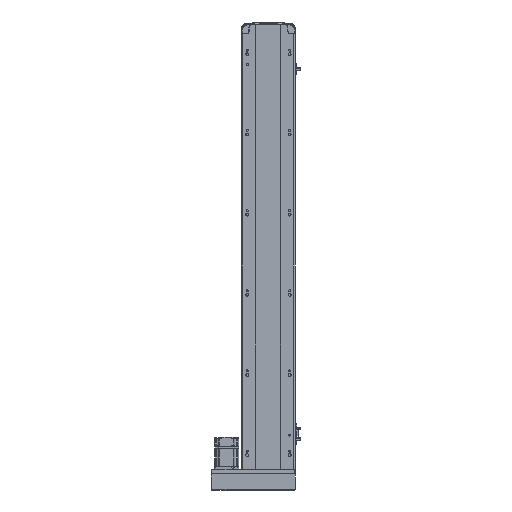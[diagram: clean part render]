
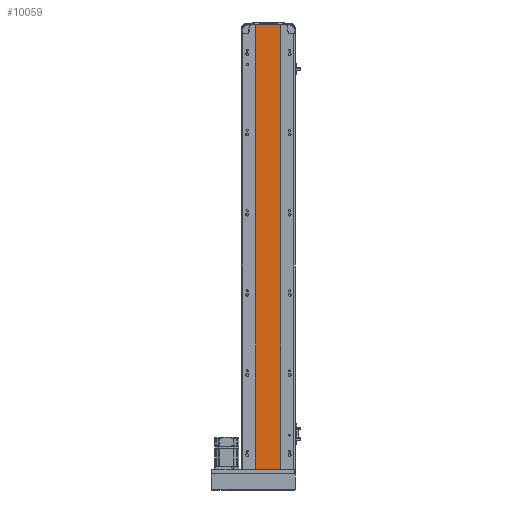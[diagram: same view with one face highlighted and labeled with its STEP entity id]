
A CAD part, front view. The second image highlights one B-rep face of the part: STEP entity #10059.
In plain terms, the highlighted planar face has unit normal (0, -1, 0).
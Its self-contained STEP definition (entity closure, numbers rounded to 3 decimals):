
#1772 = LINE ( 'NONE', #57295, #24034 ) ;
#2480 = VECTOR ( 'NONE', #4521, 1000. ) ;
#4521 = DIRECTION ( 'NONE',  ( 0., 0., -1. ) ) ;
#7937 = DIRECTION ( 'NONE',  ( 1., 0., 0. ) ) ;
#10059 = ADVANCED_FACE ( 'NONE', ( #46380 ), #34416, .F. ) ;
#12330 = ORIENTED_EDGE ( 'NONE', *, *, #18883, .T. ) ;
#14506 = LINE ( 'NONE', #31838, #35455 ) ;
#17767 = AXIS2_PLACEMENT_3D ( 'NONE', #52610, #56915, #48293 ) ;
#18516 = CARTESIAN_POINT ( 'NONE',  ( -32., 1., 0. ) ) ;
#18883 = EDGE_CURVE ( 'NONE', #52884, #23152, #48756, .T. ) ;
#20228 = VERTEX_POINT ( 'NONE', #43157 ) ;
#20748 = VECTOR ( 'NONE', #7937, 1000. ) ;
#23152 = VERTEX_POINT ( 'NONE', #27539 ) ;
#24034 = VECTOR ( 'NONE', #34384, 1000. ) ;
#27148 = DIRECTION ( 'NONE',  ( 1., 0., 0. ) ) ;
#27194 = EDGE_CURVE ( 'NONE', #20228, #52884, #27557, .T. ) ;
#27539 = CARTESIAN_POINT ( 'NONE',  ( 30., 1., 0. ) ) ;
#27557 = LINE ( 'NONE', #31247, #2480 ) ;
#29405 = ORIENTED_EDGE ( 'NONE', *, *, #48100, .F. ) ;
#31247 = CARTESIAN_POINT ( 'NONE',  ( -32., 1., 1109. ) ) ;
#31838 = CARTESIAN_POINT ( 'NONE',  ( -32., 1., 1109. ) ) ;
#33347 = CARTESIAN_POINT ( 'NONE',  ( 30., 1., 1109. ) ) ;
#34384 = DIRECTION ( 'NONE',  ( 0., 0., -1. ) ) ;
#34416 = PLANE ( 'NONE',  #17767 ) ;
#35455 = VECTOR ( 'NONE', #27148, 1000. ) ;
#39305 = ORIENTED_EDGE ( 'NONE', *, *, #27194, .T. ) ;
#42750 = EDGE_CURVE ( 'NONE', #20228, #48402, #14506, .T. ) ;
#43157 = CARTESIAN_POINT ( 'NONE',  ( -32., 1., 1109. ) ) ;
#46380 = FACE_OUTER_BOUND ( 'NONE', #52458, .T. ) ;
#47937 = ORIENTED_EDGE ( 'NONE', *, *, #42750, .F. ) ;
#48100 = EDGE_CURVE ( 'NONE', #48402, #23152, #1772, .T. ) ;
#48293 = DIRECTION ( 'NONE',  ( -1., 0., 0. ) ) ;
#48402 = VERTEX_POINT ( 'NONE', #33347 ) ;
#48756 = LINE ( 'NONE', #56967, #20748 ) ;
#52458 = EDGE_LOOP ( 'NONE', ( #12330, #29405, #47937, #39305 ) ) ;
#52610 = CARTESIAN_POINT ( 'NONE',  ( -32., 1., 1109. ) ) ;
#52884 = VERTEX_POINT ( 'NONE', #18516 ) ;
#56915 = DIRECTION ( 'NONE',  ( 0., 1., 0. ) ) ;
#56967 = CARTESIAN_POINT ( 'NONE',  ( -32., 1., 0. ) ) ;
#57295 = CARTESIAN_POINT ( 'NONE',  ( 30., 1., 1109. ) ) ;
